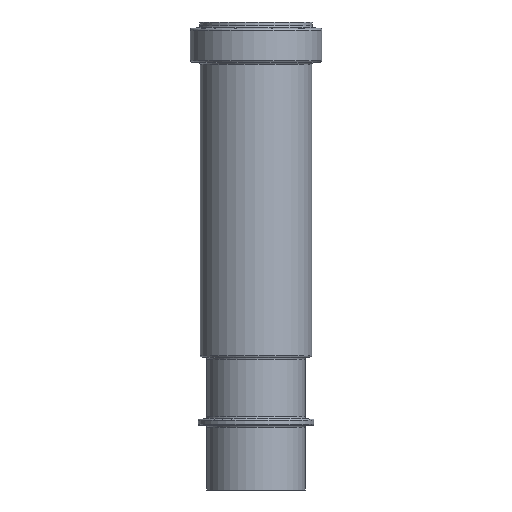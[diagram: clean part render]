
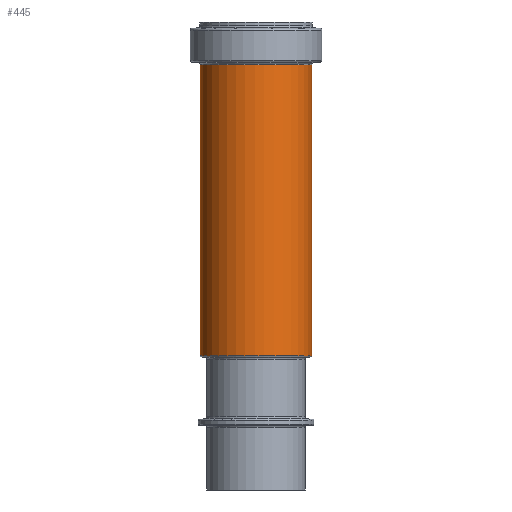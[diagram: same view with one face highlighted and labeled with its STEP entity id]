
A CAD part, front view. The second image highlights one B-rep face of the part: STEP entity #445.
In plain terms, the highlighted cylindrical face has radius 28.6 mm (diameter 57.2 mm), a full revolution.
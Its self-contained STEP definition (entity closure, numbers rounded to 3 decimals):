
#28=CYLINDRICAL_SURFACE('',#511,28.6);
#47=FACE_BOUND('',#136,.T.);
#85=FACE_OUTER_BOUND('',#135,.T.);
#135=EDGE_LOOP('',(#325));
#136=EDGE_LOOP('',(#326));
#191=CIRCLE('',#493,28.6);
#201=CIRCLE('',#512,28.6);
#229=VERTEX_POINT('',#728);
#239=VERTEX_POINT('',#757);
#267=EDGE_CURVE('',#229,#229,#191,.T.);
#277=EDGE_CURVE('',#239,#239,#201,.T.);
#325=ORIENTED_EDGE('',*,*,#277,.T.);
#326=ORIENTED_EDGE('',*,*,#267,.T.);
#445=ADVANCED_FACE('',(#85,#47),#28,.T.);
#493=AXIS2_PLACEMENT_3D('',#729,#579,#580);
#511=AXIS2_PLACEMENT_3D('',#756,#615,#616);
#512=AXIS2_PLACEMENT_3D('',#758,#617,#618);
#579=DIRECTION('center_axis',(0.,0.,-1.));
#580=DIRECTION('ref_axis',(-0.878,-0.479,0.));
#615=DIRECTION('center_axis',(0.,0.,1.));
#616=DIRECTION('ref_axis',(1.,0.,0.));
#617=DIRECTION('center_axis',(0.,0.,1.));
#618=DIRECTION('ref_axis',(-0.878,-0.479,0.));
#728=CARTESIAN_POINT('',(-25.099,-13.712,-21.926));
#729=CARTESIAN_POINT('Origin',(0.,0.,-21.926));
#756=CARTESIAN_POINT('Origin',(0.,0.,-119.826));
#757=CARTESIAN_POINT('',(25.099,13.712,-171.023));
#758=CARTESIAN_POINT('Origin',(0.,0.,
-171.023));
